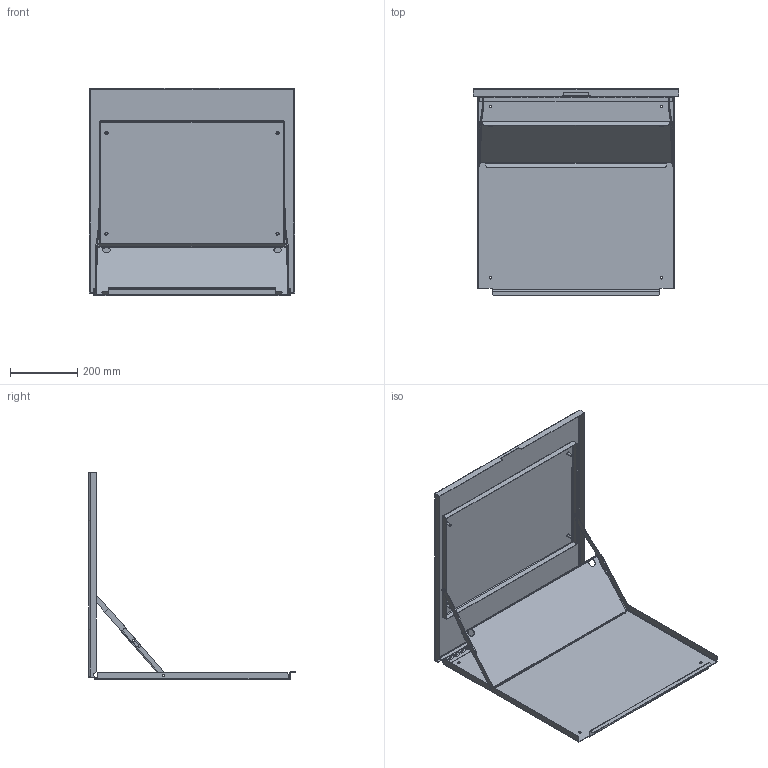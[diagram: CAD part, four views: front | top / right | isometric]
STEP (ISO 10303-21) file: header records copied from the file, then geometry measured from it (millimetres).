
FILE_DESCRIPTION((''),'2;1');
FILE_NAME('D:\scratch\ideas\assy_folding_shelf_24x24.stp', '2007-08-28T15:24:54',('User'),('SDRC'),'I-DEAS Master Series 9','UNIX', 'Yes');
FILE_SCHEMA(('AUTOMOTIVE_DESIGN { 1 0 10303 214 0 1 1 1 }'));
Length unit declared in the file: inch
Products named in the file (13): 87927393; sa_folding_shelf_24x24; 87927401; 23209003; folding_shelf; 99404177; 87927413; 87927419; 87927421
Assembly tree (16 placements, depth 4):
  87927393
    sa_folding_shelf_24x24
      87927401
      23209003
      folding_shelf
        folding_shelf
        folding_shelf
      99404177  x4
    87927413
      87927413
    87927419
      87927419
    87927421  x2
Bounding box: 609.6 x 612.75 x 616.41 mm (x, y, z)
Volume: 1624167.6 mm3; surface area: 2387740.2 mm2
Topology: 12 solids, 12 shells, 706 faces, 1994 edges, 1312 vertices
Faces by surface type: bspline 706
Entity records: 22396 total; most frequent: CARTESIAN_POINT 10674, ORIENTED_EDGE 3838, EDGE_CURVE 1919, VERTEX_POINT 1263, B_SPLINE_CURVE_WITH_KNOTS 765, EDGE_LOOP 710, QUASI_UNIFORM_CURVE 671, FACE_OUTER_BOUND 669
